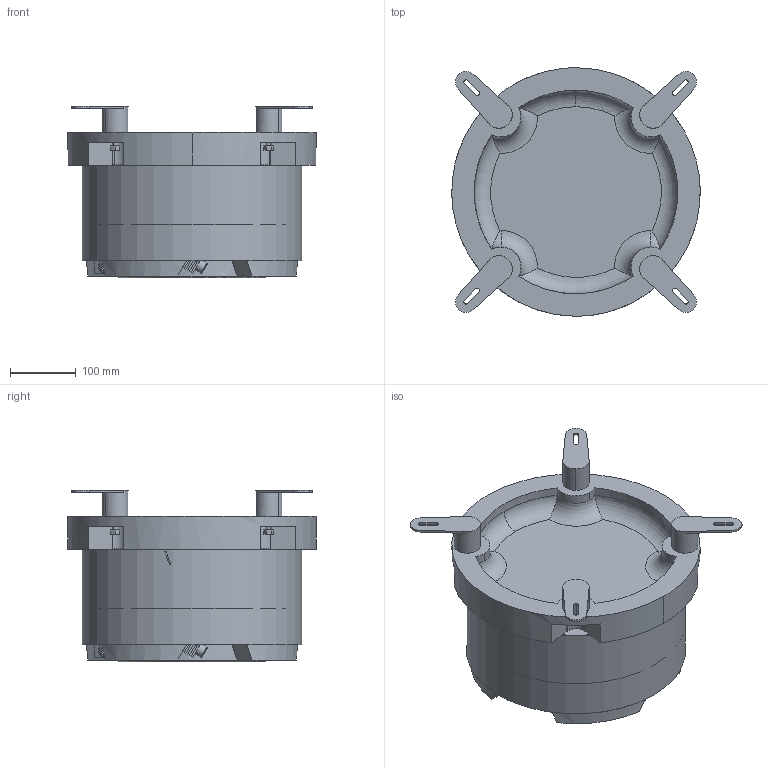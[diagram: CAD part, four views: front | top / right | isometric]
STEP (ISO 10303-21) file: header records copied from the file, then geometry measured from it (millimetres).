
FILE_DESCRIPTION(/* description */ (''),/* implementation_level */ '2;1');
FILE_NAME(/* name */ 'DE350 短片 铝盖.stp',/* time_stamp */ '2025-07-17T21:25:22+08:00',/* author */ (''),/* organization */ (''),/* preprocessor_version */ 'ST-DEVELOPER v18.102',/* originating_system */ 'SIEMENS PLM Software NX2206.1700',/* authorisation */ '');
FILE_SCHEMA (('AP203_CONFIGURATION_CONTROLLED_3D_DESIGN_OF_MECHANICAL_PARTS_AND_ASSEMBLIES_MIM_LF { 1 0 10303 403 2 1 2}'));
Length unit declared in the file: millimetre
Products named in the file (1): DE350  短片  铝盖 2023_stp_object
s
Bounding box: 376.95 x 377 x 261 mm (x, y, z)
Volume: 13811405.9 mm3; surface area: 1090116.5 mm2
Topology: 40 solids, 40 shells, 571 faces, 1334 edges, 855 vertices
Faces by surface type: plane 314, cylinder 168, cone 62, torus 27
Full cylindrical faces by diameter (mm): 9 x4, 10.2 x1, 330 x1, 331 x1, 333 x1
Entity records: 17864 total; most frequent: CARTESIAN_POINT 4247, DIRECTION 2775, ORIENTED_EDGE 2632, EDGE_CURVE 1316, AXIS2_PLACEMENT_3D 1031, VERTEX_POINT 853, LINE 713, VECTOR 713
